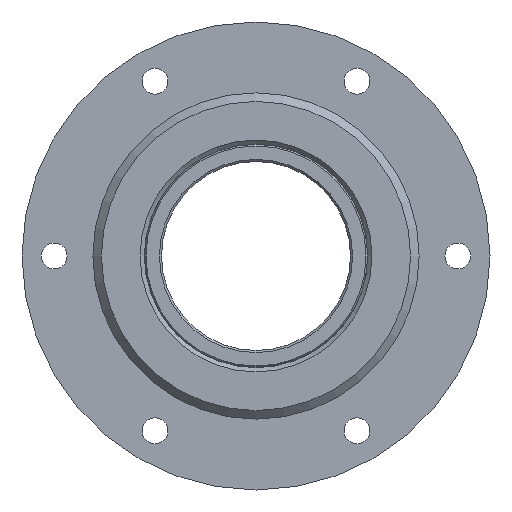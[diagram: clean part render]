
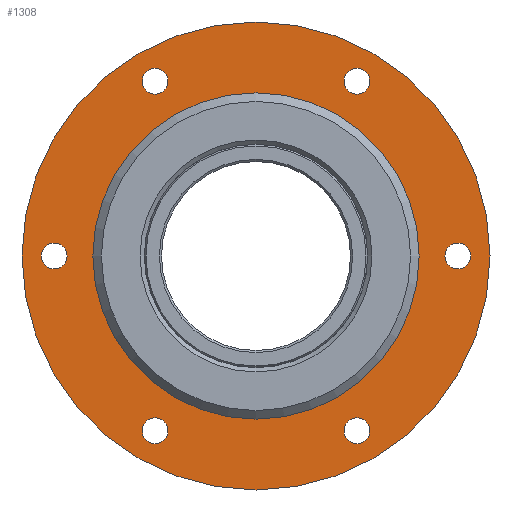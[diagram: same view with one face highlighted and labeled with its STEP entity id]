
A CAD part, front view. The second image highlights one B-rep face of the part: STEP entity #1308.
In plain terms, the highlighted planar face has unit normal (0, -1, 0).
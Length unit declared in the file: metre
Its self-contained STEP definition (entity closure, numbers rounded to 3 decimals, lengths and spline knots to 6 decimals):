
#1308=ADVANCED_FACE('',(#2306,#2307,#2308,#2309,#2310,#2311,#2312,#2313),#2314,.F.);
#2306=FACE_BOUND('',#4408,.T.);
#2307=FACE_BOUND('',#4409,.T.);
#2308=FACE_BOUND('',#4410,.T.);
#2309=FACE_BOUND('',#4411,.T.);
#2310=FACE_BOUND('',#4412,.T.);
#2311=FACE_BOUND('',#4413,.T.);
#2312=FACE_OUTER_BOUND('',#4414,.T.);
#2313=FACE_BOUND('',#4415,.T.);
#2314=PLANE('',#4416);
#4408=EDGE_LOOP('',(#5677));
#4409=EDGE_LOOP('',(#5678));
#4410=EDGE_LOOP('',(#5679));
#4411=EDGE_LOOP('',(#5680));
#4412=EDGE_LOOP('',(#5681));
#4413=EDGE_LOOP('',(#5682));
#4414=EDGE_LOOP('',(#5683));
#4415=EDGE_LOOP('',(#5684));
#4416=AXIS2_PLACEMENT_3D('',#5685,#5686,#5687);
#5677=ORIENTED_EDGE('',*,*,#5728,.T.);
#5678=ORIENTED_EDGE('',*,*,#5796,.T.);
#5679=ORIENTED_EDGE('',*,*,#5869,.T.);
#5680=ORIENTED_EDGE('',*,*,#5856,.T.);
#5681=ORIENTED_EDGE('',*,*,#5861,.T.);
#5682=ORIENTED_EDGE('',*,*,#5731,.T.);
#5683=ORIENTED_EDGE('',*,*,#5873,.F.);
#5684=ORIENTED_EDGE('',*,*,#5743,.T.);
#5685=CARTESIAN_POINT('',(0.03552,0.081325,0.0));
#5686=DIRECTION('',(0.0,1.0,0.0));
#5687=DIRECTION('',(0.0,0.0,1.0));
#5728=EDGE_CURVE('',#5880,#5880,#5881,.T.);
#5731=EDGE_CURVE('',#5885,#5885,#5886,.T.);
#5743=EDGE_CURVE('',#5906,#5906,#5907,.T.);
#5796=EDGE_CURVE('',#5992,#5992,#5993,.T.);
#5856=EDGE_CURVE('',#6074,#6074,#6075,.T.);
#5861=EDGE_CURVE('',#6080,#6080,#6081,.T.);
#5869=EDGE_CURVE('',#6089,#6089,#6090,.T.);
#5873=EDGE_CURVE('',#6095,#6095,#6096,.T.);
#5880=VERTEX_POINT('',#6103);
#5881=CIRCLE('',#6104,0.003);
#5885=VERTEX_POINT('',#6108);
#5886=CIRCLE('',#6109,0.003);
#5906=VERTEX_POINT('',#6161);
#5907=CIRCLE('',#6162,0.038);
#5992=VERTEX_POINT('',#6297);
#5993=CIRCLE('',#6298,0.003);
#6074=VERTEX_POINT('',#6392);
#6075=CIRCLE('',#6393,0.003);
#6080=VERTEX_POINT('',#6398);
#6081=CIRCLE('',#6399,0.003);
#6089=VERTEX_POINT('',#6408);
#6090=CIRCLE('',#6409,0.003);
#6095=VERTEX_POINT('',#6414);
#6096=CIRCLE('',#6415,0.0545);
#6103=CARTESIAN_POINT('',(0.05002,0.081325,0.043703));
#6104=AXIS2_PLACEMENT_3D('',#6422,#6423,#6424);
#6108=CARTESIAN_POINT('',(0.02652,0.081325,0.003));
#6109=AXIS2_PLACEMENT_3D('',#6428,#6429,#6430);
#6161=CARTESIAN_POINT('',(0.07352,0.081325,0.038));
#6162=AXIS2_PLACEMENT_3D('',#6441,#6442,#6443);
#6297=CARTESIAN_POINT('',(0.09702,0.081325,0.043703));
#6298=AXIS2_PLACEMENT_3D('',#6520,#6521,#6522);
#6392=CARTESIAN_POINT('',(0.09702,0.081325,-0.037703));
#6393=AXIS2_PLACEMENT_3D('',#6608,#6609,#6610);
#6398=CARTESIAN_POINT('',(0.05002,0.081325,-0.037703));
#6399=AXIS2_PLACEMENT_3D('',#6614,#6615,#6616);
#6408=CARTESIAN_POINT('',(0.12052,0.081325,0.003));
#6409=AXIS2_PLACEMENT_3D('',#6618,#6619,#6620);
#6414=CARTESIAN_POINT('',(0.07352,0.081325,0.0545));
#6415=AXIS2_PLACEMENT_3D('',#6624,#6625,#6626);
#6422=CARTESIAN_POINT('',(0.05002,0.081325,0.040703));
#6423=DIRECTION('',(0.0,1.0,0.0));
#6424=DIRECTION('',(0.0,0.0,1.0));
#6428=CARTESIAN_POINT('',(0.02652,0.081325,0.0));
#6429=DIRECTION('',(0.0,1.0,0.0));
#6430=DIRECTION('',(0.0,0.0,1.0));
#6441=CARTESIAN_POINT('',(0.07352,0.081325,0.0));
#6442=DIRECTION('',(0.0,1.0,0.0));
#6443=DIRECTION('',(0.0,0.0,1.0));
#6520=CARTESIAN_POINT('',(0.09702,0.081325,0.040703));
#6521=DIRECTION('',(0.0,1.0,0.0));
#6522=DIRECTION('',(0.0,0.0,1.0));
#6608=CARTESIAN_POINT('',(0.09702,0.081325,-0.040703));
#6609=DIRECTION('',(0.0,1.0,0.0));
#6610=DIRECTION('',(0.0,0.0,1.0));
#6614=CARTESIAN_POINT('',(0.05002,0.081325,-0.040703));
#6615=DIRECTION('',(0.0,1.0,0.0));
#6616=DIRECTION('',(0.0,0.0,1.0));
#6618=CARTESIAN_POINT('',(0.12052,0.081325,0.));
#6619=DIRECTION('',(0.0,1.0,0.0));
#6620=DIRECTION('',(0.0,0.0,1.0));
#6624=CARTESIAN_POINT('',(0.07352,0.081325,0.0));
#6625=DIRECTION('',(0.0,1.0,0.0));
#6626=DIRECTION('',(0.0,0.0,1.0));
